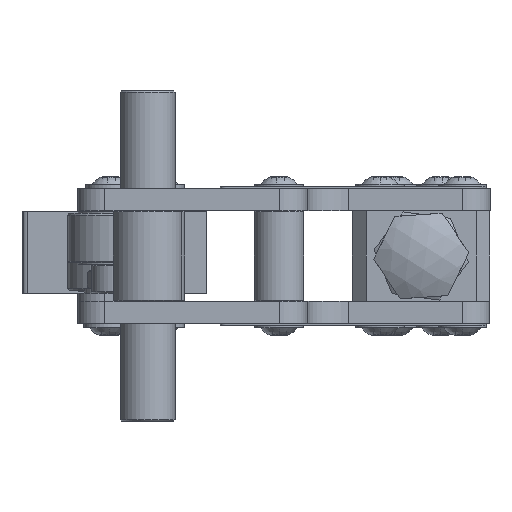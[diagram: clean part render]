
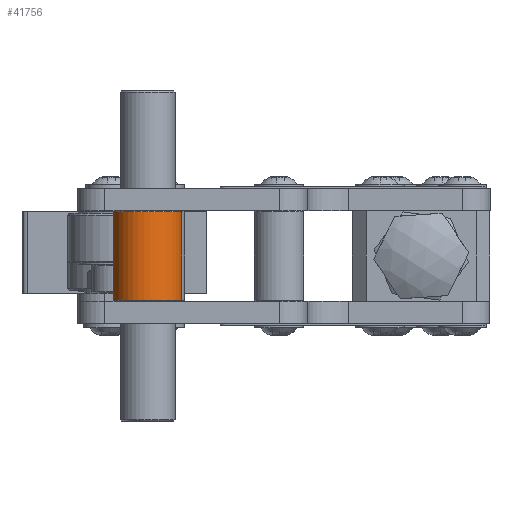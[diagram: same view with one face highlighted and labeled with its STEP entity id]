
A CAD part, left-side view. The second image highlights one B-rep face of the part: STEP entity #41756.
In plain terms, the highlighted cylindrical face has radius 12.5 mm (diameter 25 mm), a full revolution.
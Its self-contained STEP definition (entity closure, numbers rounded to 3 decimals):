
#3431=FACE_BOUND('',#8167,.T.);
#5674=FACE_OUTER_BOUND('',#8166,.T.);
#8166=EDGE_LOOP('',(#31729));
#8167=EDGE_LOOP('',(#31730));
#19018=CIRCLE('',#44281,12.5);
#19020=CIRCLE('',#44284,12.5);
#19998=VERTEX_POINT('',#58415);
#20000=VERTEX_POINT('',#58420);
#24425=EDGE_CURVE('',#19998,#19998,#19018,.T.);
#24427=EDGE_CURVE('',#20000,#20000,#19020,.T.);
#31729=ORIENTED_EDGE('',*,*,#24427,.F.);
#31730=ORIENTED_EDGE('',*,*,#24425,.F.);
#41161=CYLINDRICAL_SURFACE('',#44283,12.5);
#41756=ADVANCED_FACE('',(#5674,#3431),#41161,.T.);
#44281=AXIS2_PLACEMENT_3D('',#58416,#47936,#47937);
#44283=AXIS2_PLACEMENT_3D('',#58419,#47940,#47941);
#44284=AXIS2_PLACEMENT_3D('',#58421,#47942,#47943);
#47936=DIRECTION('center_axis',(0.,0.,-1.));
#47937=DIRECTION('ref_axis',(-1.,0.,0.));
#47940=DIRECTION('center_axis',(0.,0.,1.));
#47941=DIRECTION('ref_axis',(-1.,0.,0.));
#47942=DIRECTION('center_axis',(0.,0.,1.));
#47943=DIRECTION('ref_axis',(-1.,0.,0.));
#58415=CARTESIAN_POINT('',(12.5,0.,-16.));
#58416=CARTESIAN_POINT('Origin',(0.,0.,-16.));
#58419=CARTESIAN_POINT('Origin',(0.,0.,0.));
#58420=CARTESIAN_POINT('',(12.5,0.,16.));
#58421=CARTESIAN_POINT('Origin',(0.,0.,16.));
